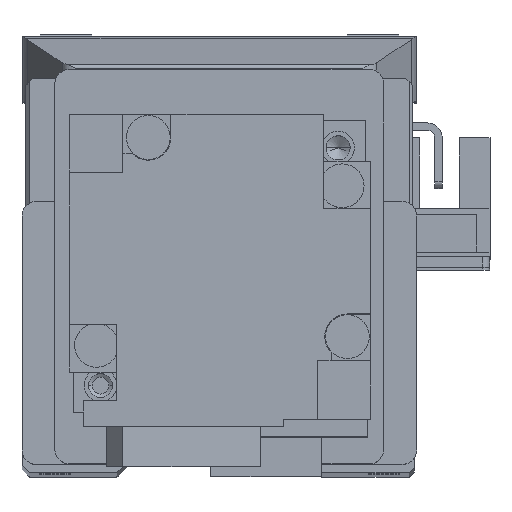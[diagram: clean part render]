
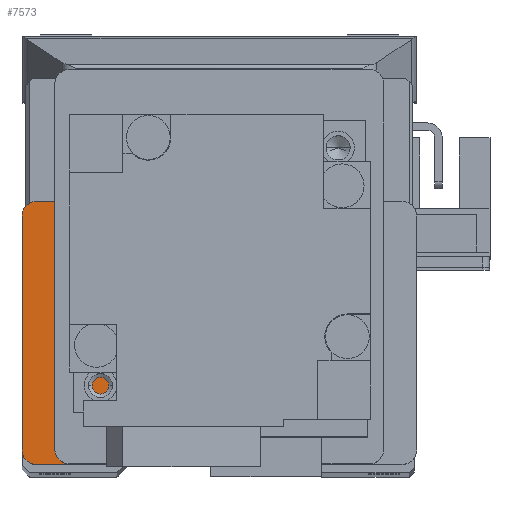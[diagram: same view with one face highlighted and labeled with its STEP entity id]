
A CAD part, top view. The second image highlights one B-rep face of the part: STEP entity #7573.
In plain terms, the highlighted planar face has unit normal (0, 0, 1) as drawn and (0, 0, -1) by its records, which use the part's own axes.
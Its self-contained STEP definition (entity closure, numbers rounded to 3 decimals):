
#793 = VERTEX_POINT ( 'NONE', #2367 ) ;
#896 = VECTOR ( 'NONE', #22142, 1000. ) ;
#2367 = CARTESIAN_POINT ( 'NONE',  ( 16., -12., 16.25 ) ) ;
#2723 = CARTESIAN_POINT ( 'NONE',  ( 27., 27., 16.25 ) ) ;
#2791 = VECTOR ( 'NONE', #4838, 1000. ) ;
#2912 = EDGE_CURVE ( 'NONE', #29272, #30209, #31662, .T. ) ;
#3702 = CARTESIAN_POINT ( 'NONE',  ( 25., -25., 16.25 ) ) ;
#3930 = DIRECTION ( 'NONE',  ( 0., 0., 1. ) ) ;
#4838 = DIRECTION ( 'NONE',  ( 0., -1., 0. ) ) ;
#6108 = CARTESIAN_POINT ( 'NONE',  ( 25., 9., 16.25 ) ) ;
#6141 = VECTOR ( 'NONE', #30810, 1000. ) ;
#6175 = DIRECTION ( 'NONE',  ( 1., 0., 0. ) ) ;
#6201 = VERTEX_POINT ( 'NONE', #6908 ) ;
#6304 = EDGE_CURVE ( 'NONE', #34587, #18514, #7019, .T. ) ;
#6736 = DIRECTION ( 'NONE',  ( -1., 0., 0. ) ) ;
#6773 = DIRECTION ( 'NONE',  ( 1., 0., 0. ) ) ;
#6908 = CARTESIAN_POINT ( 'NONE',  ( 22.5, -12., 16.25 ) ) ;
#7019 = LINE ( 'NONE', #19298, #6141 ) ;
#7573 = ADVANCED_FACE ( 'NONE', ( #8459 ), #9480, .F. ) ;
#8404 = ORIENTED_EDGE ( 'NONE', *, *, #6304, .F. ) ;
#8459 = FACE_OUTER_BOUND ( 'NONE', #33232, .T. ) ;
#8745 = ORIENTED_EDGE ( 'NONE', *, *, #24809, .T. ) ;
#9344 = VECTOR ( 'NONE', #6736, 1000. ) ;
#9480 = PLANE ( 'NONE',  #20091 ) ;
#11303 = VERTEX_POINT ( 'NONE', #24416 ) ;
#11853 = ORIENTED_EDGE ( 'NONE', *, *, #2912, .T. ) ;
#11928 = DIRECTION ( 'NONE',  ( 0., 0., 1. ) ) ;
#12120 = ORIENTED_EDGE ( 'NONE', *, *, #35604, .F. ) ;
#12360 = CARTESIAN_POINT ( 'NONE',  ( 25., -27., 16.25 ) ) ;
#14092 = DIRECTION ( 'NONE',  ( 0., 0., -1. ) ) ;
#14528 = EDGE_CURVE ( 'NONE', #24592, #34587, #20264, .T. ) ;
#14577 = CARTESIAN_POINT ( 'NONE',  ( 16., -17., 16.25 ) ) ;
#15344 = ORIENTED_EDGE ( 'NONE', *, *, #23901, .F. ) ;
#16154 = LINE ( 'NONE', #2723, #896 ) ;
#16416 = AXIS2_PLACEMENT_3D ( 'NONE', #3702, #3930, #6773 ) ;
#17362 = DIRECTION ( 'NONE',  ( 1., 0., 0. ) ) ;
#18514 = VERTEX_POINT ( 'NONE', #12360 ) ;
#18955 = AXIS2_PLACEMENT_3D ( 'NONE', #30946, #14092, #17362 ) ;
#19298 = CARTESIAN_POINT ( 'NONE',  ( -25., -27., 16.25 ) ) ;
#19469 = EDGE_CURVE ( 'NONE', #6201, #793, #30305, .T. ) ;
#19935 = LINE ( 'NONE', #21951, #28656 ) ;
#20053 = DIRECTION ( 'NONE',  ( 0., 0., 1. ) ) ;
#20091 = AXIS2_PLACEMENT_3D ( 'NONE', #20460, #11928, #31450 ) ;
#20264 = LINE ( 'NONE', #29865, #2791 ) ;
#20460 = CARTESIAN_POINT ( 'NONE',  ( 25., -25., 16.25 ) ) ;
#20683 = LINE ( 'NONE', #32081, #9344 ) ;
#21365 = CIRCLE ( 'NONE', #33474, 5. ) ;
#21951 = CARTESIAN_POINT ( 'NONE',  ( 22.5, 27., 16.25 ) ) ;
#22142 = DIRECTION ( 'NONE',  ( 0., -1., 0. ) ) ;
#22157 = ORIENTED_EDGE ( 'NONE', *, *, #34483, .F. ) ;
#22313 = DIRECTION ( 'NONE',  ( 0., 1., 0. ) ) ;
#22905 = VECTOR ( 'NONE', #30962, 1000. ) ;
#23901 = EDGE_CURVE ( 'NONE', #793, #24592, #21365, .T. ) ;
#24416 = CARTESIAN_POINT ( 'NONE',  ( 27., -25., 16.25 ) ) ;
#24592 = VERTEX_POINT ( 'NONE', #34035 ) ;
#24809 = EDGE_CURVE ( 'NONE', #6201, #31973, #19935, .T. ) ;
#27008 = CARTESIAN_POINT ( 'NONE',  ( 27., 7., 16.25 ) ) ;
#28479 = EDGE_CURVE ( 'NONE', #30209, #11303, #16154, .T. ) ;
#28656 = VECTOR ( 'NONE', #22313, 1000. ) ;
#29272 = VERTEX_POINT ( 'NONE', #6108 ) ;
#29318 = CIRCLE ( 'NONE', #16416, 2. ) ;
#29865 = CARTESIAN_POINT ( 'NONE',  ( 11., -27., 16.25 ) ) ;
#30209 = VERTEX_POINT ( 'NONE', #27008 ) ;
#30305 = LINE ( 'NONE', #36175, #22905 ) ;
#30810 = DIRECTION ( 'NONE',  ( 1., 0., 0. ) ) ;
#30946 = CARTESIAN_POINT ( 'NONE',  ( 25., 7., 16.25 ) ) ;
#30962 = DIRECTION ( 'NONE',  ( -1., 0., 0. ) ) ;
#31450 = DIRECTION ( 'NONE',  ( 1., 0., 0. ) ) ;
#31662 = CIRCLE ( 'NONE', #18955, 2. ) ;
#31973 = VERTEX_POINT ( 'NONE', #35984 ) ;
#32081 = CARTESIAN_POINT ( 'NONE',  ( 25., 9., 16.25 ) ) ;
#32442 = CARTESIAN_POINT ( 'NONE',  ( 11., -27., 16.25 ) ) ;
#32715 = ORIENTED_EDGE ( 'NONE', *, *, #14528, .F. ) ;
#33232 = EDGE_LOOP ( 'NONE', ( #35891, #8745, #22157, #11853, #34118, #12120, #8404, #32715, #15344 ) ) ;
#33474 = AXIS2_PLACEMENT_3D ( 'NONE', #14577, #20053, #6175 ) ;
#34035 = CARTESIAN_POINT ( 'NONE',  ( 11., -17., 16.25 ) ) ;
#34118 = ORIENTED_EDGE ( 'NONE', *, *, #28479, .T. ) ;
#34483 = EDGE_CURVE ( 'NONE', #29272, #31973, #20683, .T. ) ;
#34587 = VERTEX_POINT ( 'NONE', #32442 ) ;
#35604 = EDGE_CURVE ( 'NONE', #18514, #11303, #29318, .T. ) ;
#35891 = ORIENTED_EDGE ( 'NONE', *, *, #19469, .F. ) ;
#35984 = CARTESIAN_POINT ( 'NONE',  ( 22.5, 9., 16.25 ) ) ;
#36175 = CARTESIAN_POINT ( 'NONE',  ( 22.5, -12., 16.25 ) ) ;
